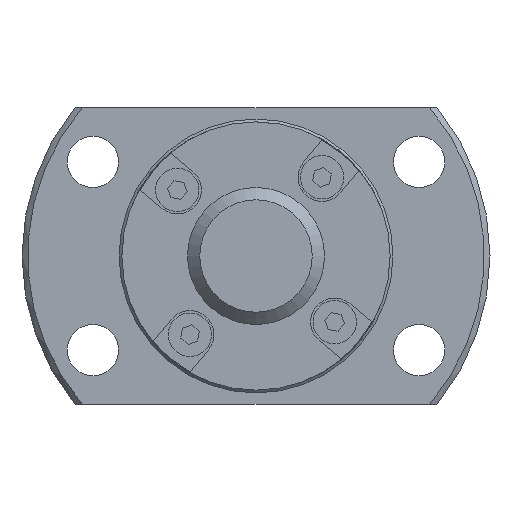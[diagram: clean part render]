
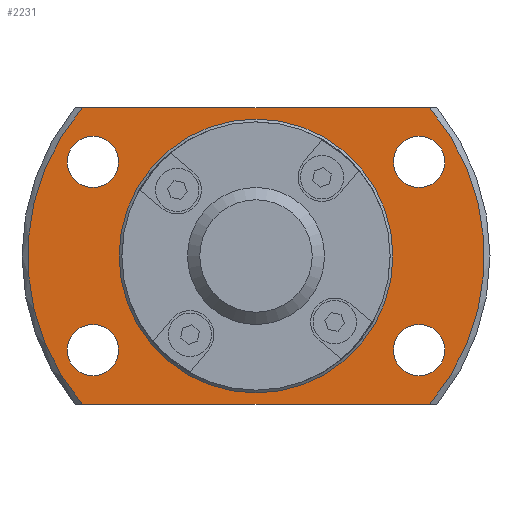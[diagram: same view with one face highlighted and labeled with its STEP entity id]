
A CAD part, left-side view. The second image highlights one B-rep face of the part: STEP entity #2231.
In plain terms, the highlighted planar face has unit normal (-1, 0, 0).
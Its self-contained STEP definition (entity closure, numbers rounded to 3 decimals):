
#36=LINE('',#3401,#252);
#37=LINE('',#3405,#253);
#252=VECTOR('',#2726,1000.);
#253=VECTOR('',#2729,1000.);
#576=ORIENTED_EDGE('',*,*,#1172,.F.);
#577=ORIENTED_EDGE('',*,*,#1173,.F.);
#578=ORIENTED_EDGE('',*,*,#1174,.F.);
#579=ORIENTED_EDGE('',*,*,#1175,.F.);
#580=ORIENTED_EDGE('',*,*,#1128,.F.);
#581=ORIENTED_EDGE('',*,*,#1176,.T.);
#582=ORIENTED_EDGE('',*,*,#1177,.F.);
#583=ORIENTED_EDGE('',*,*,#1178,.T.);
#584=ORIENTED_EDGE('',*,*,#1171,.T.);
#1128=EDGE_CURVE('',#1434,#1435,#1651,.T.);
#1171=EDGE_CURVE('',#1472,#1472,#1673,.T.);
#1172=EDGE_CURVE('',#1473,#1473,#1674,.F.);
#1173=EDGE_CURVE('',#1474,#1474,#1675,.F.);
#1174=EDGE_CURVE('',#1475,#1475,#1676,.F.);
#1175=EDGE_CURVE('',#1476,#1476,#1677,.F.);
#1176=EDGE_CURVE('',#1434,#1477,#36,.T.);
#1177=EDGE_CURVE('',#1478,#1477,#1678,.T.);
#1178=EDGE_CURVE('',#1478,#1435,#37,.T.);
#1434=VERTEX_POINT('',#3291);
#1435=VERTEX_POINT('',#3293);
#1472=VERTEX_POINT('',#3391);
#1473=VERTEX_POINT('',#3394);
#1474=VERTEX_POINT('',#3396);
#1475=VERTEX_POINT('',#3398);
#1476=VERTEX_POINT('',#3400);
#1477=VERTEX_POINT('',#3402);
#1478=VERTEX_POINT('',#3404);
#1651=CIRCLE('',#2394,20.);
#1673=CIRCLE('',#2425,11.75);
#1674=CIRCLE('',#2427,2.25);
#1675=CIRCLE('',#2428,2.25);
#1676=CIRCLE('',#2429,2.25);
#1677=CIRCLE('',#2430,2.25);
#1678=CIRCLE('',#2431,20.);
#1755=EDGE_LOOP('',(#576));
#1756=EDGE_LOOP('',(#577));
#1757=EDGE_LOOP('',(#578));
#1758=EDGE_LOOP('',(#579));
#1759=EDGE_LOOP('',(#580,#581,#582,#583));
#1760=EDGE_LOOP('',(#584));
#1949=FACE_BOUND('',#1755,.T.);
#1950=FACE_BOUND('',#1756,.T.);
#1951=FACE_BOUND('',#1757,.T.);
#1952=FACE_BOUND('',#1758,.T.);
#1953=FACE_BOUND('',#1759,.T.);
#1954=FACE_BOUND('',#1760,.T.);
#2120=PLANE('',#2426);
#2231=ADVANCED_FACE('',(#1949,#1950,#1951,#1952,#1953,#1954),#2120,.F.);
#2394=AXIS2_PLACEMENT_3D('',#3292,#2634,#2635);
#2425=AXIS2_PLACEMENT_3D('',#3390,#2714,#2715);
#2426=AXIS2_PLACEMENT_3D('',#3392,#2716,#2717);
#2427=AXIS2_PLACEMENT_3D('',#3393,#2718,#2719);
#2428=AXIS2_PLACEMENT_3D('',#3395,#2720,#2721);
#2429=AXIS2_PLACEMENT_3D('',#3397,#2722,#2723);
#2430=AXIS2_PLACEMENT_3D('',#3399,#2724,#2725);
#2431=AXIS2_PLACEMENT_3D('',#3403,#2727,#2728);
#2634=DIRECTION('',(1.,0.,0.));
#2635=DIRECTION('',(0.,0.,-1.));
#2714=DIRECTION('',(1.,0.,0.));
#2715=DIRECTION('',(0.,0.,-1.));
#2716=DIRECTION('',(1.,0.,0.));
#2717=DIRECTION('',(0.,0.,-1.));
#2718=DIRECTION('',(1.,0.,0.));
#2719=DIRECTION('',(0.,0.,-1.));
#2720=DIRECTION('',(1.,0.,0.));
#2721=DIRECTION('',(0.,0.,-1.));
#2722=DIRECTION('',(1.,0.,0.));
#2723=DIRECTION('',(0.,0.,-1.));
#2724=DIRECTION('',(1.,0.,0.));
#2725=DIRECTION('',(0.,0.,-1.));
#2726=DIRECTION('',(0.,-1.,0.));
#2727=DIRECTION('',(1.,0.,0.));
#2728=DIRECTION('',(0.,0.,-1.));
#2729=DIRECTION('',(0.,1.,0.));
#3291=CARTESIAN_POINT('',(14.5,15.199,-13.));
#3292=CARTESIAN_POINT('',(14.5,0.,0.));
#3293=CARTESIAN_POINT('',(14.5,15.199,13.));
#3390=CARTESIAN_POINT('',(14.5,0.,0.));
#3391=CARTESIAN_POINT('',(14.5,0.,-11.75));
#3392=CARTESIAN_POINT('',(14.5,11.75,0.));
#3393=CARTESIAN_POINT('',(14.5,-14.289,-8.25));
#3394=CARTESIAN_POINT('',(14.5,-14.289,-10.5));
#3395=CARTESIAN_POINT('',(14.5,-14.289,8.25));
#3396=CARTESIAN_POINT('',(14.5,-14.289,6.));
#3397=CARTESIAN_POINT('',(14.5,14.289,-8.25));
#3398=CARTESIAN_POINT('',(14.5,14.289,-10.5));
#3399=CARTESIAN_POINT('',(14.5,14.289,8.25));
#3400=CARTESIAN_POINT('',(14.5,14.289,6.));
#3401=CARTESIAN_POINT('',(14.5,11.75,-13.));
#3402=CARTESIAN_POINT('',(14.5,-15.199,-13.));
#3403=CARTESIAN_POINT('',(14.5,0.,0.));
#3404=CARTESIAN_POINT('',(14.5,-15.199,13.));
#3405=CARTESIAN_POINT('',(14.5,11.75,13.));
